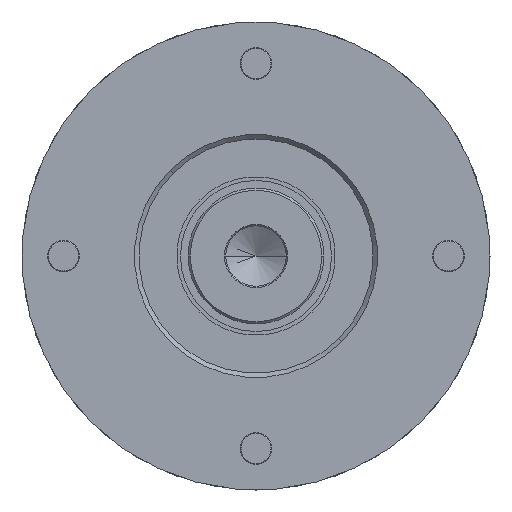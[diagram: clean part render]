
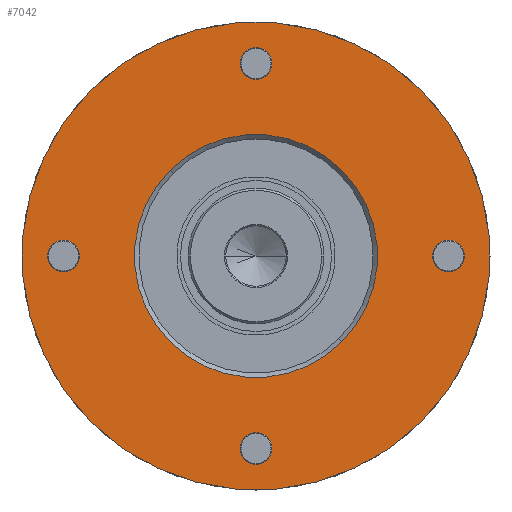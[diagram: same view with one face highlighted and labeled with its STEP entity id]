
A CAD part, left-side view. The second image highlights one B-rep face of the part: STEP entity #7042.
In plain terms, the highlighted planar face has unit normal (-1, 0, 0).
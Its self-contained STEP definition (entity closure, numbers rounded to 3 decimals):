
#6351=CARTESIAN_POINT('',(0.,0.,0.));
#6352=DIRECTION('',(-1.,0.,0.));
#6353=DIRECTION('',(0.,1.,0.));
#6354=AXIS2_PLACEMENT_3D('',#6351,#6352,#6353);
#6359=CARTESIAN_POINT('',(0.,0.,0.));
#6360=DIRECTION('',(1.,0.,0.));
#6361=DIRECTION('',(0.,1.,0.));
#6362=AXIS2_PLACEMENT_3D('',#6359,#6360,#6361);
#6367=CARTESIAN_POINT('',(0.,0.,0.));
#6368=DIRECTION('',(-1.,0.,0.));
#6369=DIRECTION('',(0.,-1.,0.));
#6370=AXIS2_PLACEMENT_3D('',#6367,#6368,#6369);
#6375=CARTESIAN_POINT('',(0.,0.,0.));
#6376=DIRECTION('',(-1.,0.,0.));
#6377=DIRECTION('',(0.,1.,0.));
#6378=AXIS2_PLACEMENT_3D('',#6375,#6376,#6377);
#6383=CARTESIAN_POINT('',(0.,18.031,-18.031));
#6384=DIRECTION('',(1.,0.,0.));
#6385=DIRECTION('',(0.,-1.,0.));
#6386=AXIS2_PLACEMENT_3D('',#6383,#6384,#6385);
#6391=CARTESIAN_POINT('',(0.,18.031,-18.031));
#6392=DIRECTION('',(1.,0.,0.));
#6393=DIRECTION('',(0.,1.,0.));
#6394=AXIS2_PLACEMENT_3D('',#6391,#6392,#6393);
#6399=CARTESIAN_POINT('',(0.,18.031,18.031));
#6400=DIRECTION('',(1.,0.,0.));
#6401=DIRECTION('',(0.,-1.,0.));
#6402=AXIS2_PLACEMENT_3D('',#6399,#6400,#6401);
#6407=CARTESIAN_POINT('',(0.,18.031,18.031));
#6408=DIRECTION('',(1.,0.,0.));
#6409=DIRECTION('',(0.,1.,0.));
#6410=AXIS2_PLACEMENT_3D('',#6407,#6408,#6409);
#6415=CARTESIAN_POINT('',(0.,-18.031,18.031));
#6416=DIRECTION('',(1.,0.,0.));
#6417=DIRECTION('',(0.,-1.,0.));
#6418=AXIS2_PLACEMENT_3D('',#6415,#6416,#6417);
#6423=CARTESIAN_POINT('',(0.,-18.031,18.031));
#6424=DIRECTION('',(1.,0.,0.));
#6425=DIRECTION('',(0.,1.,0.));
#6426=AXIS2_PLACEMENT_3D('',#6423,#6424,#6425);
#6431=CARTESIAN_POINT('',(0.,-18.031,-18.031));
#6432=DIRECTION('',(1.,0.,0.));
#6433=DIRECTION('',(0.,-1.,0.));
#6434=AXIS2_PLACEMENT_3D('',#6431,#6432,#6433);
#6439=CARTESIAN_POINT('',(0.,-18.031,-18.031));
#6440=DIRECTION('',(1.,0.,0.));
#6441=DIRECTION('',(0.,1.,0.));
#6442=AXIS2_PLACEMENT_3D('',#6439,#6440,#6441);
#6647=CARTESIAN_POINT('',(0.,15.931,-18.031));
#6648=CARTESIAN_POINT('',(0.,20.131,-18.031));
#6649=VERTEX_POINT('',#6647);
#6650=VERTEX_POINT('',#6648);
#6651=CARTESIAN_POINT('',(0.,15.931,18.031));
#6652=CARTESIAN_POINT('',(0.,20.131,18.031));
#6653=VERTEX_POINT('',#6651);
#6654=VERTEX_POINT('',#6652);
#6655=CARTESIAN_POINT('',(0.,-20.131,18.031));
#6656=CARTESIAN_POINT('',(0.,-15.931,18.031));
#6657=VERTEX_POINT('',#6655);
#6658=VERTEX_POINT('',#6656);
#6659=CARTESIAN_POINT('',(0.,-20.131,-18.031));
#6660=CARTESIAN_POINT('',(0.,-15.931,-18.031));
#6661=VERTEX_POINT('',#6659);
#6662=VERTEX_POINT('',#6660);
#6663=CARTESIAN_POINT('',(0.,31.,0.));
#6664=CARTESIAN_POINT('',(0.,-31.,0.));
#6665=VERTEX_POINT('',#6663);
#6666=VERTEX_POINT('',#6664);
#6675=CARTESIAN_POINT('',(0.,-16.1,0.));
#6676=CARTESIAN_POINT('',(0.,16.1,0.));
#6677=VERTEX_POINT('',#6675);
#6678=VERTEX_POINT('',#6676);
#7005=CARTESIAN_POINT('',(0.,0.,0.));
#7006=DIRECTION('',(1.,0.,0.));
#7007=DIRECTION('',(0.,-1.,0.));
#7008=AXIS2_PLACEMENT_3D('',#7005,#7006,#7007);
#7009=PLANE('',#7008);
#7010=ORIENTED_EDGE('',*,*,#6972,.F.);
#7011=ORIENTED_EDGE('',*,*,#6987,.T.);
#7012=EDGE_LOOP('',(#7010,#7011));
#7013=FACE_OUTER_BOUND('',#7012,.F.);
#7014=ORIENTED_EDGE('',*,*,#6743,.T.);
#7015=ORIENTED_EDGE('',*,*,#6758,.T.);
#7016=EDGE_LOOP('',(#7014,#7015));
#7017=FACE_BOUND('',#7016,.F.);
#7019=ORIENTED_EDGE('',*,*,#7018,.F.);
#7021=ORIENTED_EDGE('',*,*,#7020,.F.);
#7022=EDGE_LOOP('',(#7019,#7021));
#7023=FACE_BOUND('',#7022,.F.);
#7025=ORIENTED_EDGE('',*,*,#7024,.F.);
#7027=ORIENTED_EDGE('',*,*,#7026,.F.);
#7028=EDGE_LOOP('',(#7025,#7027));
#7029=FACE_BOUND('',#7028,.F.);
#7031=ORIENTED_EDGE('',*,*,#7030,.F.);
#7033=ORIENTED_EDGE('',*,*,#7032,.F.);
#7034=EDGE_LOOP('',(#7031,#7033));
#7035=FACE_BOUND('',#7034,.F.);
#7037=ORIENTED_EDGE('',*,*,#7036,.F.);
#7039=ORIENTED_EDGE('',*,*,#7038,.F.);
#7040=EDGE_LOOP('',(#7037,#7039));
#7041=FACE_BOUND('',#7040,.F.);
#6355=CIRCLE('',#6354,31.);
#6363=CIRCLE('',#6362,31.);
#6371=CIRCLE('',#6370,16.1);
#6379=CIRCLE('',#6378,16.1);
#6387=CIRCLE('',#6386,2.1);
#6395=CIRCLE('',#6394,2.1);
#6403=CIRCLE('',#6402,2.1);
#6411=CIRCLE('',#6410,2.1);
#6419=CIRCLE('',#6418,2.1);
#6427=CIRCLE('',#6426,2.1);
#6435=CIRCLE('',#6434,2.1);
#6443=CIRCLE('',#6442,2.1);
#6743=EDGE_CURVE('',#6677,#6678,#6371,.T.);
#6758=EDGE_CURVE('',#6678,#6677,#6379,.T.);
#6972=EDGE_CURVE('',#6665,#6666,#6355,.T.);
#6987=EDGE_CURVE('',#6665,#6666,#6363,.T.);
#7018=EDGE_CURVE('',#6649,#6650,#6387,.T.);
#7020=EDGE_CURVE('',#6650,#6649,#6395,.T.);
#7024=EDGE_CURVE('',#6653,#6654,#6403,.T.);
#7026=EDGE_CURVE('',#6654,#6653,#6411,.T.);
#7030=EDGE_CURVE('',#6657,#6658,#6419,.T.);
#7032=EDGE_CURVE('',#6658,#6657,#6427,.T.);
#7036=EDGE_CURVE('',#6661,#6662,#6435,.T.);
#7038=EDGE_CURVE('',#6662,#6661,#6443,.T.);
#7042=ADVANCED_FACE('',(#7013,#7017,#7023,#7029,#7035,#7041),#7009,.F.);
